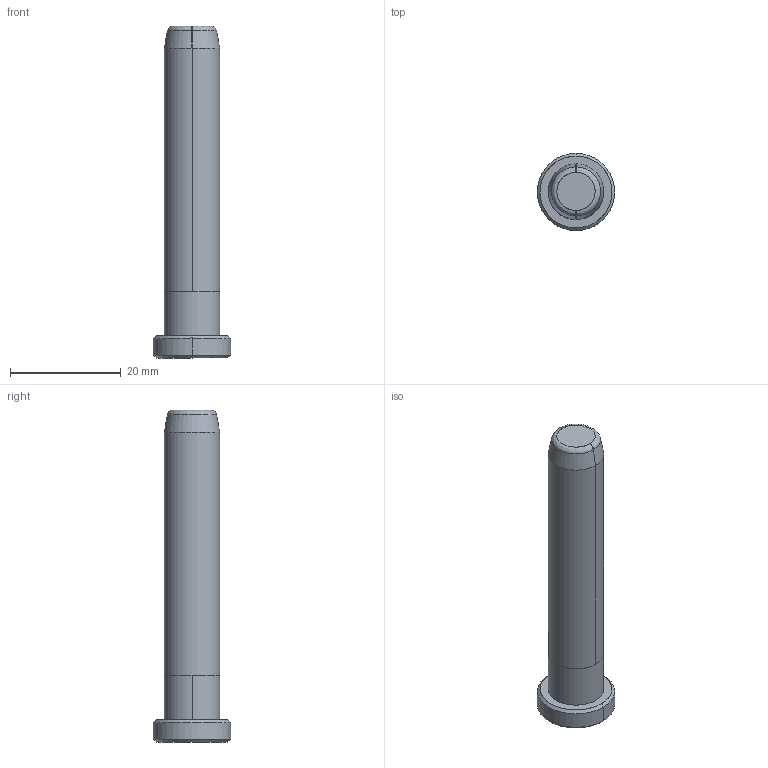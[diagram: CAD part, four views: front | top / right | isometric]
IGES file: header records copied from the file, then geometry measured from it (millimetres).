
Start section: START RECORD GO HERE.
Global section: file name: B80810060.igs; native system: DASSAULT SYSTEMES CATIA V5 R20 - www.3ds.com; preprocessor: CATIA Version 5 Release 20 ; author: Utente; organization: NB04-ASUS; date: 20200419.165618; units: millimetre
Bounding box: 14 x 14 x 60 mm (x, y, z)
Surface area: 2181.6 mm2 (no closed solid volume)
Topology: 0 solids, 0 shells, 20 faces, 80 edges, 80 vertices
Faces by surface type: revolution 16, plane 4
